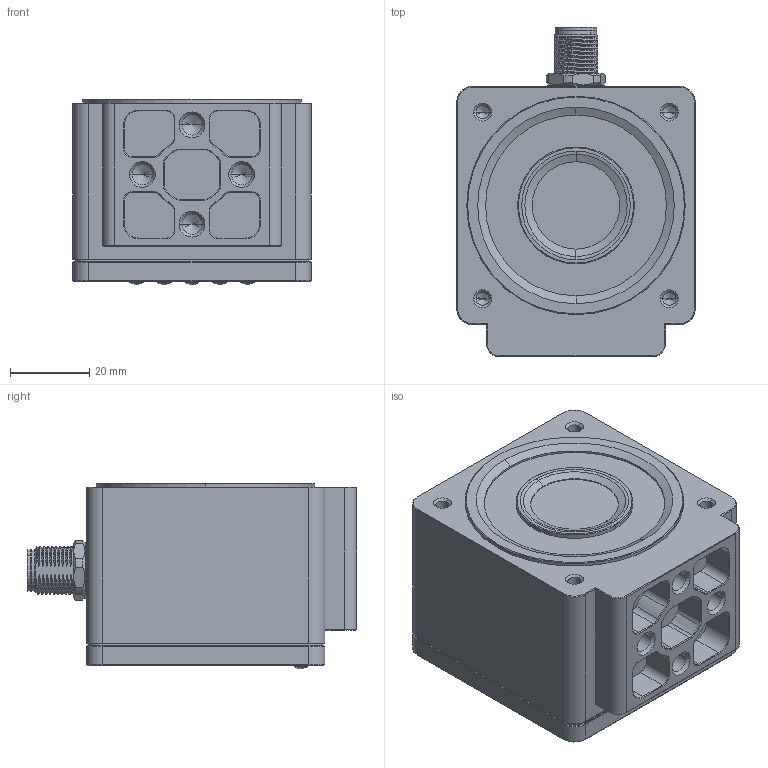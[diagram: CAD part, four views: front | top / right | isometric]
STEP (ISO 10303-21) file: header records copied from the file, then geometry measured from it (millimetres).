
FILE_DESCRIPTION((''),'2;1');
FILE_NAME('DH3-3827-6006_1_1_2','2023-08-15T15:06:16',('19499'),(''),'CREO PARAMETRIC BY PTC INC, 2020184','CREO PARAMETRIC BY PTC INC, 2020184','');
FILE_SCHEMA(('CONFIG_CONTROL_DESIGN','SHAPE_APPEARANCE_LAYERS_GROUPS'));
Length unit declared in the file: millimetre
Products named in the file (1): DH3-3827-6006_1_1_2
Bounding box: 60 x 82.85 x 46.8 mm (x, y, z)
Volume: 168173.9 mm3; surface area: 30218 mm2
Topology: 1 solids, 39 shells, 1034 faces, 2636 edges, 1687 vertices
Faces by surface type: cylinder 407, plane 301, cone 214, bspline 64, torus 30, sphere 10, extrusion 8
Entity records: 47888 total; most frequent: CARTESIAN_POINT 13507, ORIENTED_EDGE 5204, DIRECTION 5070, PRESENTATION_STYLE_ASSIGNMENT 2872, STYLED_ITEM 2611, CURVE_STYLE 2610, EDGE_CURVE 2602, AXIS2_PLACEMENT_3D 2081
